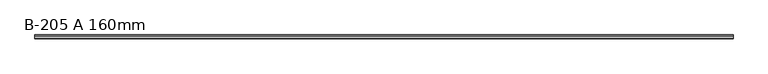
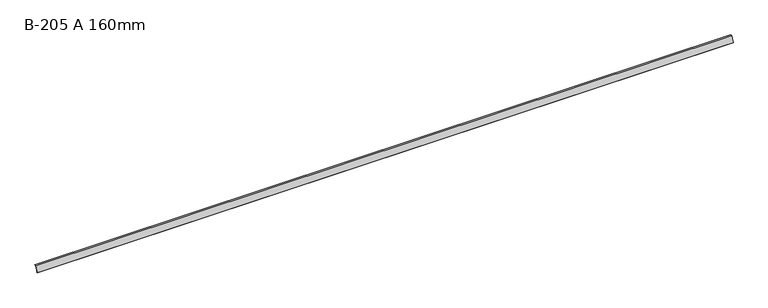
"""IFC4 building model written with IfcOpenShell, lengths in millimetres: proxy geometry, GROVIK_Flashing_Eaves : B-205 A 160mm."""

import ifcopenshell
import ifcopenshell.guid

model = None  # the IFC model being written
_history = None  # IfcOwnerHistory: only IFC2X3 demands one
_inside = {}  # id of a spatial element -> (the spatial element, [elements in it])
_under = {}  # id of a project, library or spatial element -> (it, [spatial elements below it])
_declared = {}  # id of a project -> (the project, [libraries it declares])
_typed = {}  # id of a type object -> (the type object, [elements of that type])
_made_of = {}  # id of a material, layer set ... -> (it, [elements and type objects made of it])


def new_model(schema):
    """Start an empty IFC model of exactly this schema.

    Asked for "IFC4X3", IfcOpenShell would pick the latest addendum, in which some entities
    have other attributes; the version numbers below select the first issue.
    IFC2X3 requires an IfcOwnerHistory on every rooted entity: one is made here for all.
    """
    global model, _history
    if schema == "IFC4X3":
        model = ifcopenshell.file(schema_version=(4, 3, 0, 0))
    else:
        model = ifcopenshell.file(schema=schema)
    _inside.clear()
    _under.clear()
    _declared.clear()
    _typed.clear()
    _made_of.clear()
    _history = None
    if model.schema == "IFC2X3":
        org = make("IfcOrganization", Name="unknown")
        user = make(
            "IfcPersonAndOrganization",
            ThePerson=make("IfcPerson", FamilyName="unknown"),
            TheOrganization=org,
        )
        app = make(
            "IfcApplication",
            ApplicationDeveloper=org,
            Version="unknown",
            ApplicationFullName="unknown",
            ApplicationIdentifier="unknown",
        )
        _history = make(
            "IfcOwnerHistory",
            OwningUser=user,
            OwningApplication=app,
            ChangeAction="ADDED",
            CreationDate=0,
        )
    return model


def make(cls, **values):
    """One entity of the class cls with the attributes given. An attribute that is None is left unset."""
    return model.create_entity(
        cls, **{name: value for name, value in values.items() if value is not None}
    )


def rooted(cls, **values):
    """An entity with a GlobalId (a new one), such as an element, a storey or a relation."""
    return make(cls, GlobalId=ifcopenshell.guid.new(), OwnerHistory=_history, **values)


def si_unit(unit_type, name, prefix=None):
    """IfcSIUnit, for example si_unit("LENGTHUNIT", "METRE", prefix="MILLI")."""
    return make("IfcSIUnit", UnitType=unit_type, Prefix=prefix, Name=name)


def assignment(units):
    """IfcUnitAssignment: the units of a project."""
    return None if units is None else make("IfcUnitAssignment", Units=units)


def point(xyz):
    """IfcCartesianPoint."""
    return None if xyz is None else make("IfcCartesianPoint", Coordinates=xyz)


def direction(xyz):
    """IfcDirection."""
    return None if xyz is None else make("IfcDirection", DirectionRatios=xyz)


def frame(location, z_axis=None, x_axis=None):
    """IfcAxis2Placement3D, a coordinate frame: its origin and axes. An axis left out is left unset."""
    return make(
        "IfcAxis2Placement3D",
        Location=point(location),
        Axis=direction(z_axis),
        RefDirection=direction(x_axis),
    )


def origin():
    """The frame at (0, 0, 0) with its axes left unset."""
    return frame((0.0, 0.0, 0.0))


def place(relative_to, where):
    """IfcLocalPlacement: puts the frame where relative to a parent placement (None: the world)."""
    return make(
        "IfcLocalPlacement", PlacementRelTo=relative_to, RelativePlacement=where
    )


def context(
    kind, dimensions, precision=None, world=None, true_north=None, identifier=None
):
    """IfcGeometricRepresentationContext, for example the 3D "Model" context."""
    return make(
        "IfcGeometricRepresentationContext",
        ContextIdentifier=identifier,
        ContextType=kind,
        CoordinateSpaceDimension=dimensions,
        Precision=precision,
        WorldCoordinateSystem=world,
        TrueNorth=true_north,
    )


def project(units=None, contexts=None):
    """IfcProject with its units and contexts."""
    return rooted(
        "IfcProject",
        Name="project",
        RepresentationContexts=contexts,
        UnitsInContext=assignment(units),
    )


def spatial(cls, under=None, at=None, **own):
    """A site, building, storey or space (cls), placed at a placement, below another one or the project."""
    s = rooted(cls, ObjectPlacement=at, **own)
    if under is not None:
        _under.setdefault(under.id(), (under, []))[1].append(s)
    return s


def polyline(points):
    """IfcPolyline through the points."""
    return make("IfcPolyline", Points=[point(p) for p in points])


def outline(outer, holes=None, kind="AREA"):
    """IfcArbitraryClosedProfileDef: a profile drawn as a closed curve; with holes, ...WithVoids."""
    if holes is None:
        return make("IfcArbitraryClosedProfileDef", ProfileType=kind, OuterCurve=outer)
    return make(
        "IfcArbitraryProfileDefWithVoids",
        ProfileType=kind,
        OuterCurve=outer,
        InnerCurves=holes,
    )


def extrude(swept, where, along, depth):
    """IfcExtrudedAreaSolid: the profile swept, set in the frame where, extruded along a direction by depth."""
    return make(
        "IfcExtrudedAreaSolid",
        SweptArea=swept,
        Position=where,
        ExtrudedDirection=direction(along),
        Depth=depth,
    )


def shape(context_of_items, identifier, shape_type, items):
    """IfcShapeRepresentation: the items that make up one representation, for example the "Body"."""
    return make(
        "IfcShapeRepresentation",
        ContextOfItems=context_of_items,
        RepresentationIdentifier=identifier,
        RepresentationType=shape_type,
        Items=items,
    )


def source(mapping_origin, context_of_items, identifier, shape_type, items):
    """IfcRepresentationMap: a shape defined once, which mapped items show again and again."""
    return make(
        "IfcRepresentationMap",
        MappingOrigin=mapping_origin,
        MappedRepresentation=shape(context_of_items, identifier, shape_type, items),
    )


def transform(
    local_origin,
    x_axis=None,
    y_axis=None,
    z_axis=None,
    scale=None,
    scale2=None,
    scale3=None,
    uniform=True,
):
    """IfcCartesianTransformationOperator3D, or its non-uniform kind. x_axis, y_axis, z_axis: its Axis1, 2, 3."""
    if uniform:
        return make(
            "IfcCartesianTransformationOperator3D",
            Axis1=direction(x_axis),
            Axis2=direction(y_axis),
            LocalOrigin=point(local_origin),
            Scale=scale,
            Axis3=direction(z_axis),
        )
    return make(
        "IfcCartesianTransformationOperator3DnonUniform",
        Axis1=direction(x_axis),
        Axis2=direction(y_axis),
        LocalOrigin=point(local_origin),
        Scale=scale,
        Axis3=direction(z_axis),
        Scale2=scale2,
        Scale3=scale3,
    )


def mapped(mapping_source, mapping_target):
    """IfcMappedItem: shows the shape of a source again, moved by a transform."""
    return make(
        "IfcMappedItem", MappingSource=mapping_source, MappingTarget=mapping_target
    )


def made_of(thing, what):
    """Note that an element or type object is made of a material, layer set ...; save() writes the relation."""
    if what is not None:
        _made_of.setdefault(what.id(), (what, []))[1].append(thing)
    return thing


def element(
    cls,
    number,
    at=None,
    inside=None,
    cuts=None,
    type_object=None,
    material=None,
    context=None,
    identifier="Body",
    shape_type=None,
    held_by="IfcProductDefinitionShape",
    body=None,
    shapes=None,
    **own,
):
    """One element of the class cls, such as IfcWall. Its Tag is "e" and its number.

    at: its placement. inside: the storey or other place that contains it. cuts: it is an
    opening in that element (IfcRelVoidsElement). A single representation is given by context,
    identifier, shape_type and body (its items); several are given by shapes. held_by: the class
    of the entity that holds the representations. save() writes the other relations.
    """
    e = rooted(cls, Tag="e%d" % number, ObjectPlacement=at, **own)
    if body is not None:
        shapes = [shape(context, identifier, shape_type, body)]
    if shapes is not None:
        e.Representation = make(held_by, Representations=shapes)
    if inside is not None:
        _inside.setdefault(inside.id(), (inside, []))[1].append(e)
    if cuts is not None:
        rooted(
            "IfcRelVoidsElement", RelatingBuildingElement=cuts, RelatedOpeningElement=e
        )
    if type_object is not None:
        _typed.setdefault(type_object.id(), (type_object, []))[1].append(e)
    return made_of(e, material)


def aggregate(whole, parts):
    """IfcRelAggregates: a whole, such as a stair, and the parts it consists of."""
    return rooted("IfcRelAggregates", RelatingObject=whole, RelatedObjects=parts)


def save(model, path):
    """Write the relations noted so far, then the file.

    IfcRelAggregates (storeys below a building ...), IfcRelContainedInSpatialStructure (elements
    in a storey), IfcRelDefinesByType, IfcRelAssociatesMaterial and IfcRelDeclares: one each for
    every whole, place, type object, material and project.
    """
    for whole, parts in _under.values():
        aggregate(whole, parts)
    for where, things in _inside.values():
        rooted(
            "IfcRelContainedInSpatialStructure",
            RelatedElements=things,
            RelatingStructure=where,
        )
    for kind, things in _typed.values():
        rooted("IfcRelDefinesByType", RelatedObjects=things, RelatingType=kind)
    for what, things in _made_of.values():
        rooted("IfcRelAssociatesMaterial", RelatedObjects=things, RelatingMaterial=what)
    for by, libraries in _declared.values():
        rooted("IfcRelDeclares", RelatingContext=by, RelatedDefinitions=libraries)
    model.write(path)


def b_205_a_160mm_78ee4c8c(model_context):
    return source(origin(), model_context, "Body", "SweptSolid", [
        extrude(outline(polyline([(-0.6918582, 0.9880759), (-57.9129574, -148.077984), (-48.2100002, -145.6587651), (-47.9680783, -146.6290608), (-59.5349563, -149.5130074), (-1.3837164, 1.9761518), (33.9599168, 2.5930772), (33.9773692, 1.5932295), (-0.6918582, 0.9880759)])), frame((0.0, 0.0, 0.0), z_axis=(1.0, 0.0, 0.0), x_axis=(0.0, 1.0, 0.0)), (0.0, 0.0, 1.0), 17220.0),
    ])


if __name__ == "__main__":
    model = new_model("IFC4")
    model_context = context("Model", 3, world=origin())
    ifc_project = project(units=[si_unit("LENGTHUNIT", "METRE", prefix="MILLI")], contexts=[model_context])
    site = spatial("IfcSite", under=ifc_project)
    building = spatial("IfcBuilding", under=site)
    placement = place(None, origin())
    b_205_a_160mm_shape = b_205_a_160mm_78ee4c8c(model_context)
    element("IfcBuildingElementProxy", 1, Name="GROVIK_Flashing_Eaves : B-205 A 160mm", ObjectType="GROVIK_Flashing_Eaves : B-205 A 160mm", at=placement, inside=building, context=model_context, shape_type="MappedRepresentation", body=[
        mapped(b_205_a_160mm_shape, transform((0.0, 0.0, 0.0), x_axis=(1.0, 0.0, 0.0), y_axis=(0.0, 1.0, 0.0), z_axis=(0.0, 0.0, 1.0))),
    ])
    save(model, "model.ifc")
